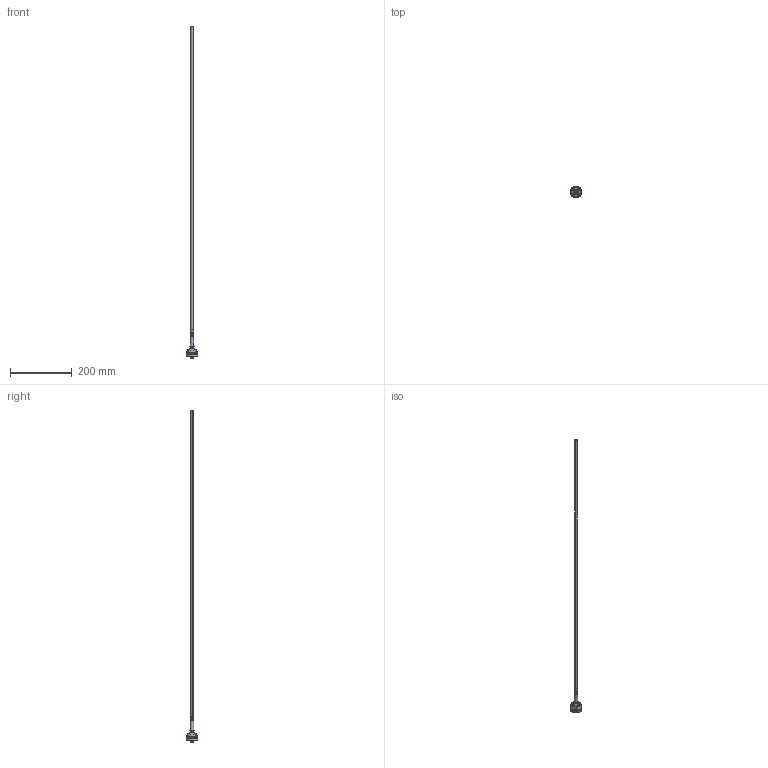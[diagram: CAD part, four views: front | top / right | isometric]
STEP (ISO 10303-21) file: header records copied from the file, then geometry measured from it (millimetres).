
FILE_DESCRIPTION (( 'STEP AP214' ), '1' );
FILE_NAME ('12000 SK V7 Inline Connector Tail Xm.STEP', '2025-06-09T15:35:17', ( '' ), ( '' ), 'SwSTEP 2.0', 'SolidWorks 2022', '' );
FILE_SCHEMA (( 'AUTOMOTIVE_DESIGN' ));
Length unit declared in the file: millimetre
Products named in the file (8): 12000 SK V7 Inline Connector Tail Xm; 11407 Shield Connection Pin; 11408 Connector Base - Ethernet Configuration_Pin Idents; S11405 1.8mm ID x 1.2mm CS O-Ring; 02076 Connector Socket Contact; S9 72-0161-16 O-Ring Seal; straight connector; 12085 Pwr-Ethernet Cable 7mm OD - Configurable Length
Assembly tree (12 placements, depth 2):
  12000 SK V7 Inline Connector Tail Xm
    12085 Pwr-Ethernet Cable 7mm OD - Configurable Length
    straight connector
    11408 Connector Base - Ethernet Configuration_Pin Idents
    S9 72-0161-16 O-Ring Seal
    02076 Connector Socket Contact  x6
    11407 Shield Connection Pin
    S11405 1.8mm ID x 1.2mm CS O-Ring
Bounding box: 37.88 x 37.88 x 1076.65 mm (x, y, z)
Volume: 62472 mm3; surface area: 35599.8 mm2
Topology: 12 solids, 12 shells, 569 faces, 1342 edges, 797 vertices
Faces by surface type: cylinder 206, plane 138, cone 110, torus 78, bspline 37
Entity records: 13002 total; most frequent: CARTESIAN_POINT 4297, DIRECTION 1669, ORIENTED_EDGE 1572, EDGE_CURVE 786, AXIS2_PLACEMENT_3D 676, VERTEX_POINT 482, EDGE_LOOP 396, CIRCLE 359
